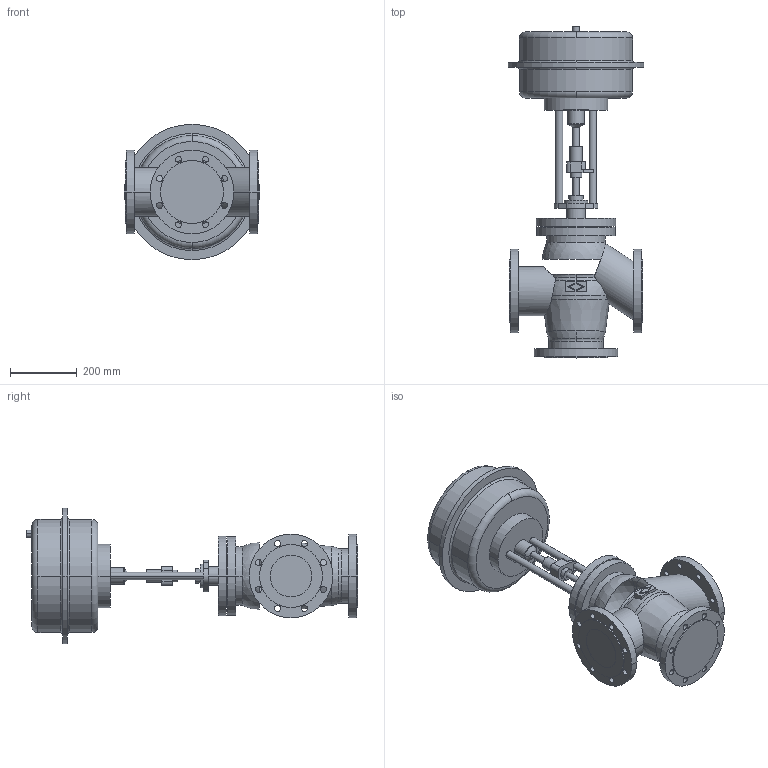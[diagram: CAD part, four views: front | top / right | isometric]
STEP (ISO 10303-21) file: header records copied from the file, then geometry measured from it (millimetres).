
FILE_DESCRIPTION( ( '' ), '1' );
FILE_NAME( 'C:/temp/WMCHECKOUT/c000000693.stp', '2020-02-04T11:50:23', ( '' ), ( '' ), ' ', ' ', ' ' );
FILE_SCHEMA( ( 'CONFIG_CONTROL_DESIGN' ) );
Length unit declared in the file: millimetre
Products named in the file (2): 1; 2
Bounding box: 405 x 992 x 405 mm (x, y, z)
Volume: 33840686.7 mm3; surface area: 1382575.2 mm2
Topology: 2 solids, 2 shells, 216 faces, 552 edges, 363 vertices
Faces by surface type: cylinder 116, plane 68, torus 22, sphere 6, cone 4
Entity records: 7592 total; most frequent: CARTESIAN_POINT 1939, DIRECTION 1264, ORIENTED_EDGE 1088, EDGE_CURVE 544, AXIS2_PLACEMENT_3D 528, VERTEX_POINT 363, CIRCLE 308, EDGE_LOOP 295
